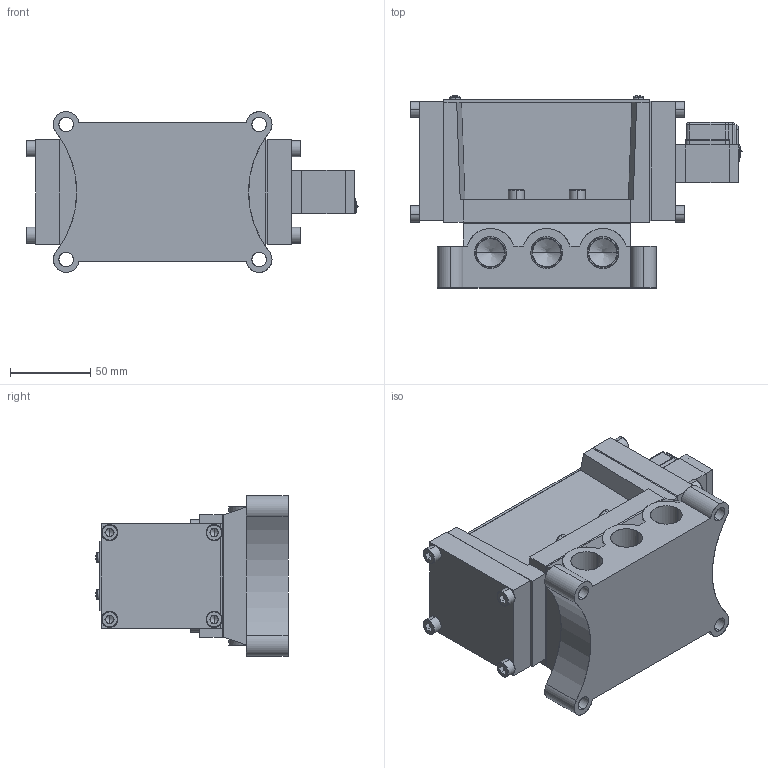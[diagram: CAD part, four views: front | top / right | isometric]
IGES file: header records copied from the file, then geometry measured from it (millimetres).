
Start section: SolidWorks IGES file using analytic representation for surfaces
Global section: file name: D:\Custom\3D繪製\PM\PM15\PMS2415#-04-#G#.IGS,1; native system: 5HSolidWorks 2014; preprocessor: SolidWorks 2014; author: Chieh_Lu; date: 151215.222429; units: millimetre
Bounding box: 206.47 x 119.55 x 100 mm (x, y, z)
Surface area: 186527.6 mm2 (no closed solid volume)
Topology: 0 solids, 0 shells, 859 faces, 9271 edges, 9226 vertices
Faces by surface type: bspline 548, revolution 311
